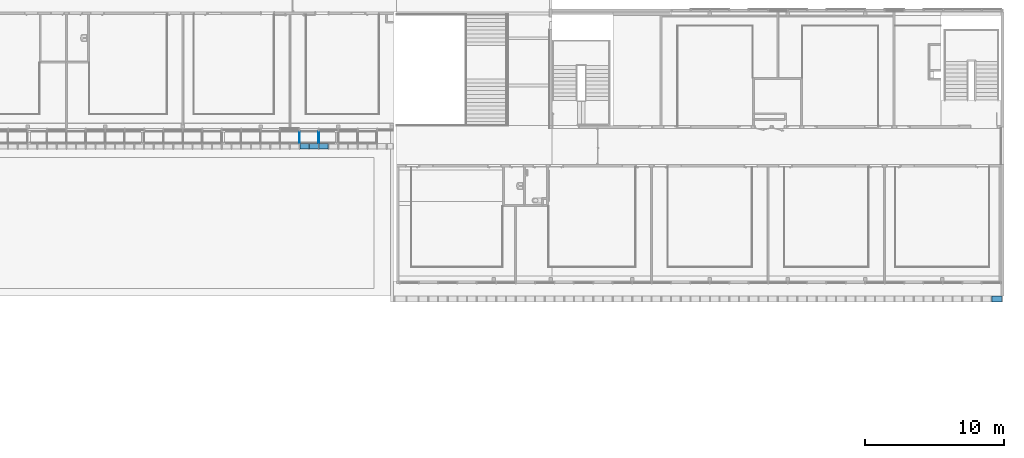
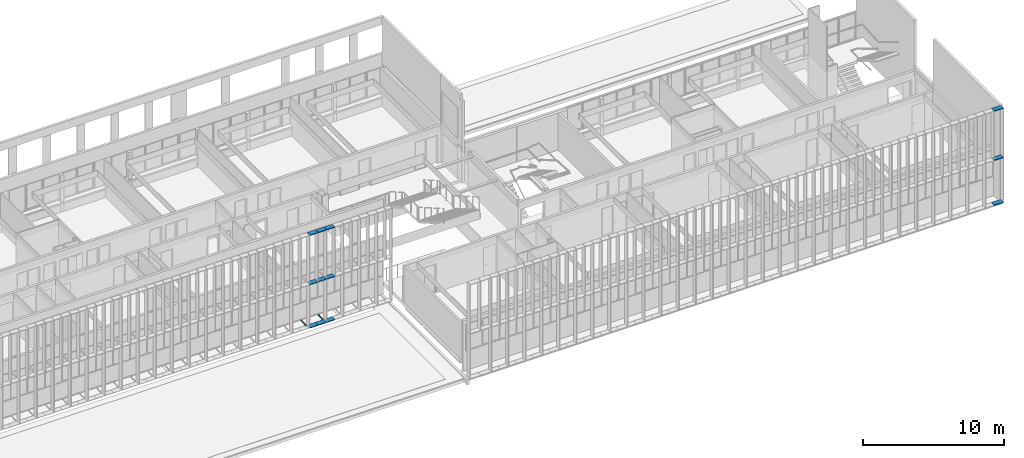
# One storey, part 26 of 106: 14 members, 3 elements without a shape of their own.
"""IFC2X3 building model written with IfcOpenShell, lengths in centimetres."""

from ifc_helpers import new_model, entity, si_unit, converted_unit, derived_unit, direction, frame, origin, origin_2d_with_axis, place, context, subcontext, project, spatial, rectangle, extrude, source, transform, mapped, material, type_object, type_shapes, element, aggregate, save


model = new_model("IFC2X3")

# Units and contexts
model_context = context("Model", 3, precision=0.001, world=origin(), true_north=direction((6.12303176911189e-17, 1.0)))
body_context = subcontext(model_context, "Body", "Model", "MODEL_VIEW")
ifc_project = project(units=[si_unit("LENGTHUNIT", "METRE", prefix="CENTI"), si_unit("AREAUNIT", "SQUARE_METRE"), si_unit("VOLUMEUNIT", "CUBIC_METRE"), converted_unit("PLANEANGLEUNIT", "DEGREE", entity("IfcRatioMeasure", 0.0174532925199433), si_unit("PLANEANGLEUNIT", "RADIAN"), dimensions=[0, 0, 0, 0, 0, 0, 0]), si_unit("MASSUNIT", "GRAM", prefix="KILO"), derived_unit("MASSDENSITYUNIT", [(si_unit("MASSUNIT", "GRAM", prefix="KILO"), 1), (si_unit("LENGTHUNIT", "METRE"), -3)]), si_unit("TIMEUNIT", "SECOND"), si_unit("FREQUENCYUNIT", "HERTZ"), si_unit("THERMODYNAMICTEMPERATUREUNIT", "DEGREE_CELSIUS"), derived_unit("THERMALTRANSMITTANCEUNIT", [(si_unit("MASSUNIT", "GRAM", prefix="KILO"), 1), (si_unit("THERMODYNAMICTEMPERATUREUNIT", "KELVIN"), -1), (si_unit("TIMEUNIT", "SECOND"), -3)]), derived_unit("VOLUMETRICFLOWRATEUNIT", [(si_unit("LENGTHUNIT", "METRE"), 3), (si_unit("TIMEUNIT", "SECOND"), -1)]), si_unit("ELECTRICCURRENTUNIT", "AMPERE"), si_unit("ELECTRICVOLTAGEUNIT", "VOLT"), si_unit("POWERUNIT", "WATT"), si_unit("FORCEUNIT", "NEWTON", prefix="KILO"), si_unit("ILLUMINANCEUNIT", "LUX"), si_unit("LUMINOUSFLUXUNIT", "LUMEN"), si_unit("LUMINOUSINTENSITYUNIT", "CANDELA"), derived_unit("USERDEFINED", [(si_unit("MASSUNIT", "GRAM", prefix="KILO"), -1), (si_unit("LENGTHUNIT", "METRE"), -2), (si_unit("TIMEUNIT", "SECOND"), 3), (si_unit("LUMINOUSFLUXUNIT", "LUMEN"), 1)]), derived_unit("LINEARVELOCITYUNIT", [(si_unit("LENGTHUNIT", "METRE"), 1), (si_unit("TIMEUNIT", "SECOND"), -1)]), si_unit("PRESSUREUNIT", "PASCAL"), derived_unit("USERDEFINED", [(si_unit("LENGTHUNIT", "METRE"), -2), (si_unit("MASSUNIT", "GRAM", prefix="KILO"), 1), (si_unit("TIMEUNIT", "SECOND"), -2)])], contexts=[model_context])

# Site, building, storey
site_placement = place(None, frame((-2781.94577612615, 7442.24238424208, 0.0)))
site = spatial("IfcSite", under=ifc_project, at=site_placement, Name="Default", CompositionType="ELEMENT")
building_placement = place(site_placement, origin())
building = spatial("IfcBuilding", under=site, at=building_placement, CompositionType="ELEMENT")
storey_placement = place(building_placement, frame((0.0, 0.0, 422.0)))
storey = spatial("IfcBuildingStorey", under=building, at=storey_placement, Name="Toiture - Cuisine", CompositionType="ELEMENT", Elevation=421.999999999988)

# Roof, members
curtain_wall_type_1 = type_object("IfcCurtainWallType", Name="Vitres inclinées:Toit en verre 1 m x 2 m", PredefinedType="NOTDEFINED")
roof_placement = place(building_placement, origin())
roof = element("IfcRoof", 1, at=roof_placement, inside=storey, type_object=curtain_wall_type_1, Name="Vitres inclinées:Toit en verre 1 m x 2 m", ObjectType="Vitres inclinées:Toit en verre 1 m x 2 m", ShapeType="NOTDEFINED")
ifc_material_1 = material(Name="Plastique, blanc opaque")
member_type_1 = type_object("IfcMemberType", Name="100 x 50mm", PredefinedType="MEMBER")
shared_shape_1 = source(origin(), body_context, "Body", "SweptSolid", [
    extrude(rectangle(XDim=10.0, YDim=5.0, at=origin_2d_with_axis()), frame((0.0, 0.0, -80.1235111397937), z_axis=(0.0, 0.0, 1.0), x_axis=(0.0, -1.0, 0.0)), (0.0, 0.0, 1.0), 80.1235111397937),
])
type_shapes(member_type_1, [shared_shape_1])
member_1_placement = place(building_placement, frame((-5469.50004166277, -1955.33386109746, 362.448168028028), z_axis=(0.0, 0.998629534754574, 0.0523359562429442), x_axis=(1.0, 0.0, 0.0)))
member_1 = element("IfcMember", 2, at=member_1_placement, type_object=member_type_1, material=ifc_material_1, Name="Meneau rectangulaire:100 x 50mm", ObjectType="Meneau rectangulaire:100 x 50mm", context=body_context, shape_type="MappedRepresentation", body=[
    mapped(shared_shape_1, transform((0.0, 0.0, 0.0), scale=1.0)),
])
member_2_placement = place(building_placement, frame((-5329.50004166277, -1955.33386109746, 362.448168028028), z_axis=(0.0, 0.998629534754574, 0.0523359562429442), x_axis=(1.0, 0.0, 0.0)))
member_2 = element("IfcMember", 3, at=member_2_placement, type_object=member_type_1, material=ifc_material_1, Name="Meneau rectangulaire:100 x 50mm", ObjectType="Meneau rectangulaire:100 x 50mm", context=body_context, shape_type="MappedRepresentation", body=[
    mapped(shared_shape_1, transform((0.0, 0.0, 0.0), scale=1.0)),
])
aggregate(roof, [member_1, member_2])

# Curtain wall, member
curtain_wall_type_2 = type_object("IfcCurtainWallType", Name="Mur-rideau:Epines - 400x30mm", PredefinedType="NOTDEFINED")
curtain_wall_1_placement = place(building_placement, origin())
curtain_wall_1 = element("IfcCurtainWall", 4, at=curtain_wall_1_placement, inside=storey, type_object=curtain_wall_type_2, Name="Mur-rideau:Epines - 400x30mm", ObjectType="Mur-rideau:Epines - 400x30mm")
ifc_material_2 = material(Name="Aluminium")
member_type_2 = type_object("IfcMemberType", Name="Epine sud (400x50 mm)", PredefinedType="MEMBER")
shared_shape_2 = source(origin(), body_context, "Body", "SweptSolid", [
    extrude(rectangle(XDim=40.0, YDim=5.0, at=origin_2d_with_axis()), frame((-2.5, 0.0, -73.2499973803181), z_axis=(0.0, 0.0, 1.0), x_axis=(0.0, -1.0, 0.0)), (0.0, 0.0, 1.0), 73.2499973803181),
])
type_shapes(member_type_2, [shared_shape_2])
member_3_placement = place(building_placement, frame((-404.999882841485, -3160.31349958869, 1176.0), z_axis=(1.0, 0.0, 0.0), x_axis=(0.0, 0.0, 1.0)))
member_3 = element("IfcMember", 5, at=member_3_placement, type_object=member_type_2, material=ifc_material_2, Name="Meneau rectangulaire:Epine sud (400x50 mm)", ObjectType="Meneau rectangulaire:Epine sud (400x50 mm)", context=body_context, shape_type="MappedRepresentation", body=[
    mapped(shared_shape_2, transform((0.0, 0.0, 0.0), scale=1.0)),
])

# Curtain wall, members
curtain_wall_2_placement = place(building_placement, origin())
curtain_wall_2 = element("IfcCurtainWall", 6, at=curtain_wall_2_placement, inside=storey, type_object=curtain_wall_type_2, Name="Mur-rideau:Epines - 400x30mm", ObjectType="Mur-rideau:Epines - 400x30mm")
member_type_3 = type_object("IfcMemberType", Name="Epine sud (400x50 mm)", PredefinedType="MEMBER")
shared_shape_3 = source(origin(), body_context, "Body", "SweptSolid", [
    extrude(rectangle(XDim=40.0, YDim=5.0, at=origin_2d_with_axis()), frame((-2.5, 0.0, -65.0), z_axis=(0.0, 0.0, 1.0), x_axis=(0.0, -1.0, 0.0)), (0.0, 0.0, 1.0), 64.9999999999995),
])
type_shapes(member_type_3, [shared_shape_3])
member_4_placement = place(building_placement, frame((-5331.99987763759, -2060.07903364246, 1176.0), z_axis=(1.0, 0.0, 0.0), x_axis=(0.0, 0.0, 1.0)))
member_4 = element("IfcMember", 7, at=member_4_placement, type_object=member_type_3, material=ifc_material_2, Name="Meneau rectangulaire:Epine sud (400x50 mm)", ObjectType="Meneau rectangulaire:Epine sud (400x50 mm)", context=body_context, shape_type="MappedRepresentation", body=[
    mapped(shared_shape_3, transform((0.0, 0.0, 0.0), scale=1.0)),
])
member_5_placement = place(building_placement, frame((-5401.99987763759, -2060.07903364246, 1176.0), z_axis=(1.0, 0.0, 0.0), x_axis=(0.0, 0.0, 1.0)))
member_5 = element("IfcMember", 8, at=member_5_placement, type_object=member_type_3, material=ifc_material_2, Name="Meneau rectangulaire:Epine sud (400x50 mm)", ObjectType="Meneau rectangulaire:Epine sud (400x50 mm)", context=body_context, shape_type="MappedRepresentation", body=[
    mapped(shared_shape_3, transform((0.0, 0.0, 0.0), scale=1.0)),
])
member_6_placement = place(building_placement, frame((-5261.99987763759, -2060.07903364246, 1176.0), z_axis=(1.0, 0.0, 0.0), x_axis=(0.0, 0.0, 1.0)))
member_6 = element("IfcMember", 9, at=member_6_placement, type_object=member_type_3, material=ifc_material_2, Name="Meneau rectangulaire:Epine sud (400x50 mm)", ObjectType="Meneau rectangulaire:Epine sud (400x50 mm)", context=body_context, shape_type="MappedRepresentation", body=[
    mapped(shared_shape_3, transform((0.0, 0.0, 0.0), scale=1.0)),
])
member_type_4 = type_object("IfcMemberType", Name="Epine sud (400x50 mm)", PredefinedType="MEMBER")
shared_shape_4 = source(origin(), body_context, "Body", "SweptSolid", [
    extrude(rectangle(XDim=40.0, YDim=5.0, at=origin_2d_with_axis()), frame((-2.5, 0.0, -67.4999999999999), z_axis=(0.0, 0.0, 1.0), x_axis=(0.0, -1.0, 0.0)), (0.0, 0.0, 1.0), 67.5000000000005),
])
type_shapes(member_type_4, [shared_shape_4])
member_7_placement = place(building_placement, frame((-5466.99987763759, -2060.07903364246, 367.449291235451), z_axis=(-1.0, 0.0, 0.0), x_axis=(0.0, 0.0, -1.0)))
member_7 = element("IfcMember", 10, at=member_7_placement, type_object=member_type_4, material=ifc_material_2, Name="Meneau rectangulaire:Epine sud (400x50 mm)", ObjectType="Meneau rectangulaire:Epine sud (400x50 mm)", context=body_context, shape_type="MappedRepresentation", body=[
    mapped(shared_shape_4, transform((0.0, 0.0, 0.0), scale=1.0)),
])
member_8_placement = place(building_placement, frame((-5326.99987763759, -2060.07903364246, 367.449291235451), z_axis=(-1.0, 0.0, 0.0), x_axis=(0.0, 0.0, -1.0)))
member_8 = element("IfcMember", 11, at=member_8_placement, type_object=member_type_4, material=ifc_material_2, Name="Meneau rectangulaire:Epine sud (400x50 mm)", ObjectType="Meneau rectangulaire:Epine sud (400x50 mm)", context=body_context, shape_type="MappedRepresentation", body=[
    mapped(shared_shape_4, transform((0.0, 0.0, 0.0), scale=1.0)),
])
member_type_5 = type_object("IfcMemberType", Name="Epine sud (400x50 mm)", PredefinedType="MEMBER")
shared_shape_5 = source(origin(), body_context, "Body", "SweptSolid", [
    extrude(rectangle(XDim=40.0, YDim=5.0, at=origin_2d_with_axis()), frame((0.0, 0.0, -65.0), z_axis=(0.0, 0.0, 1.0), x_axis=(0.0, -1.0, 0.0)), (0.0, 0.0, 1.0), 65.0000000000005),
])
type_shapes(member_type_5, [shared_shape_5])
member_9_placement = place(building_placement, frame((-5401.99987763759, -2060.07903364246, 745.4), z_axis=(1.0, 0.0, 0.0), x_axis=(0.0, 0.0, 1.0)))
member_9 = element("IfcMember", 12, at=member_9_placement, type_object=member_type_5, material=ifc_material_2, Name="Meneau rectangulaire:Epine sud (400x50 mm)", ObjectType="Meneau rectangulaire:Epine sud (400x50 mm)", context=body_context, shape_type="MappedRepresentation", body=[
    mapped(shared_shape_5, transform((0.0, 0.0, 0.0), scale=1.0)),
])
member_10_placement = place(building_placement, frame((-5261.99987763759, -2060.07903364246, 745.4), z_axis=(1.0, 0.0, 0.0), x_axis=(0.0, 0.0, 1.0)))
member_10 = element("IfcMember", 13, at=member_10_placement, type_object=member_type_5, material=ifc_material_2, Name="Meneau rectangulaire:Epine sud (400x50 mm)", ObjectType="Meneau rectangulaire:Epine sud (400x50 mm)", context=body_context, shape_type="MappedRepresentation", body=[
    mapped(shared_shape_5, transform((0.0, 0.0, 0.0), scale=1.0)),
])
member_11_placement = place(building_placement, frame((-5331.99987763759, -2060.07903364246, 745.4), z_axis=(1.0, 0.0, 0.0), x_axis=(0.0, 0.0, 1.0)))
member_11 = element("IfcMember", 14, at=member_11_placement, type_object=member_type_5, material=ifc_material_2, Name="Meneau rectangulaire:Epine sud (400x50 mm)", ObjectType="Meneau rectangulaire:Epine sud (400x50 mm)", context=body_context, shape_type="MappedRepresentation", body=[
    mapped(shared_shape_5, transform((0.0, 0.0, 0.0), scale=1.0)),
])
member_type_6 = type_object("IfcMemberType", Name="Epine sud (400x50 mm)", PredefinedType="MEMBER")
shared_shape_6 = source(origin(), body_context, "Body", "SweptSolid", [
    extrude(rectangle(XDim=40.0, YDim=5.0, at=origin_2d_with_axis()), frame((-2.5, 0.0, -67.4999999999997), z_axis=(0.0, 0.0, 1.0), x_axis=(0.0, -1.0, 0.0)), (0.0, 0.0, 1.0), 67.4999999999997),
])
type_shapes(member_type_6, [shared_shape_6])
member_12_placement = place(building_placement, frame((-5399.49987763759, -2060.07903364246, 367.449291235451), z_axis=(-1.0, 0.0, 0.0), x_axis=(0.0, 0.0, -1.0)))
member_12 = element("IfcMember", 15, at=member_12_placement, type_object=member_type_6, material=ifc_material_2, Name="Meneau rectangulaire:Epine sud (400x50 mm)", ObjectType="Meneau rectangulaire:Epine sud (400x50 mm)", context=body_context, shape_type="MappedRepresentation", body=[
    mapped(shared_shape_6, transform((0.0, 0.0, 0.0), scale=1.0)),
])
aggregate(curtain_wall_2, [member_7, member_9, member_4, member_8, member_10, member_5, member_12, member_11, member_6])

# Member
member_type_7 = type_object("IfcMemberType", Name="Epine sud (400x50 mm)", PredefinedType="MEMBER")
shared_shape_7 = source(origin(), body_context, "Body", "SweptSolid", [
    extrude(rectangle(XDim=40.0, YDim=5.0, at=origin_2d_with_axis()), frame((-2.5, 0.0, -75.7499973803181), z_axis=(0.0, 0.0, 1.0), x_axis=(0.0, -1.0, 0.0)), (0.0, 0.0, 1.0), 75.7499973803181),
])
type_shapes(member_type_7, [shared_shape_7])
member_13_placement = place(building_placement, frame((-480.749880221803, -3160.31349958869, 353.0), z_axis=(-1.0, 0.0, 0.0), x_axis=(0.0, 0.0, -1.0)))
member_13 = element("IfcMember", 16, at=member_13_placement, type_object=member_type_7, material=ifc_material_2, Name="Meneau rectangulaire:Epine sud (400x50 mm)", ObjectType="Meneau rectangulaire:Epine sud (400x50 mm)", context=body_context, shape_type="MappedRepresentation", body=[
    mapped(shared_shape_7, transform((0.0, 0.0, 0.0), scale=1.0)),
])

member_type_8 = type_object("IfcMemberType", Name="Epine sud (400x50 mm)", PredefinedType="MEMBER")
shared_shape_8 = source(origin(), body_context, "Body", "SweptSolid", [
    extrude(rectangle(XDim=40.0, YDim=5.0, at=origin_2d_with_axis()), frame((0.0, 0.0, -73.2499973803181), z_axis=(0.0, 0.0, 1.0), x_axis=(0.0, -1.0, 0.0)), (0.0, 0.0, 1.0), 73.2499973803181),
])
type_shapes(member_type_8, [shared_shape_8])
member_14_placement = place(building_placement, frame((-404.999882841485, -3160.31349958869, 745.5), z_axis=(1.0, 0.0, 0.0), x_axis=(0.0, 0.0, 1.0)))
member_14 = element("IfcMember", 17, at=member_14_placement, type_object=member_type_8, material=ifc_material_2, Name="Meneau rectangulaire:Epine sud (400x50 mm)", ObjectType="Meneau rectangulaire:Epine sud (400x50 mm)", context=body_context, shape_type="MappedRepresentation", body=[
    mapped(shared_shape_8, transform((0.0, 0.0, 0.0), scale=1.0)),
])

aggregate(curtain_wall_1, [member_3, member_13, member_14])

save(model, "model.ifc")
